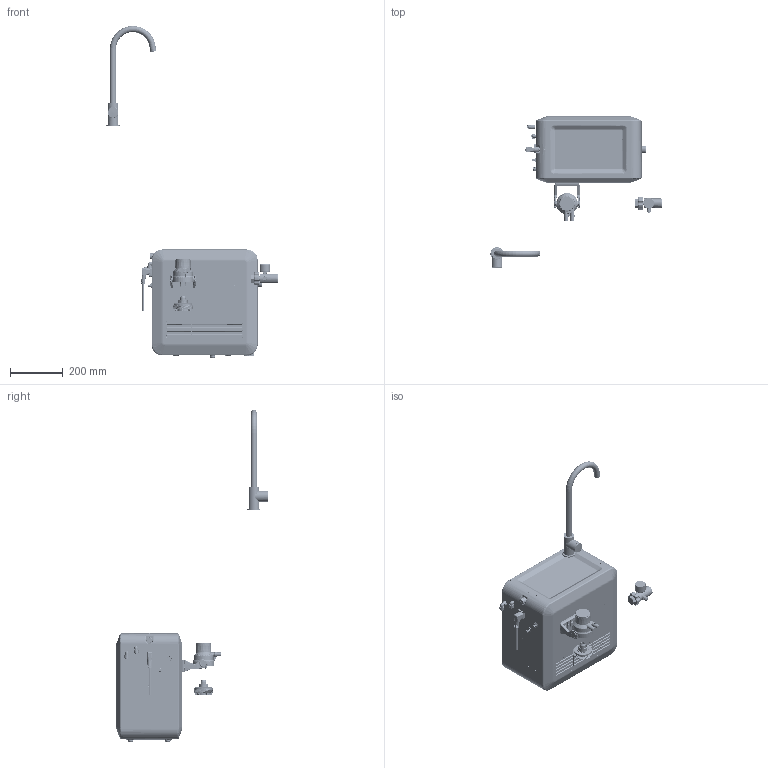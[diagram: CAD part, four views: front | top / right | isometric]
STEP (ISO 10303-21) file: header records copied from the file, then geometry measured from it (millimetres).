
FILE_DESCRIPTION(/* description */ ('Unknown'),/* implementation_level */ '2;1');
FILE_NAME(/* name */ '31302002',/* time_stamp */ '2022-09-07T16:05:25+02:00',/* author */ ('Unknown'),/* organization */ ('GROHE AG'),/* preprocessor_version */ 'ST-DEVELOPER v16.7',/* originating_system */ 'DEX',/* authorisation */ $);
FILE_SCHEMA (('CONFIG_CONTROL_DESIGN','AUTOMOTIVE_DESIGN {1 0 10303 214 3 1 1}'));
Products named in the file (33): 31302002; 31302002_0; 31302002_1; 31302002_2; NONE; Ecran Makrolon; Hauptkörper; 31302002_3; Hauptkörper_0; Hauptkörper_1; Hauptkörper_2; Hauptkörper_3; 31302002_4; 31302002_5; 31302002_6; 31302002_7; 31302002_8; 31302002_9; 31302002_10; 31302002_11; 31302002_12; 31302002_13; 31302002_14; 31302002_15; 31302002_16; 31302002_17; 31302002_18; Document; A1921_MENTOR_ALLCATPART_14072015; 40.2100.13300 for customer; Document_0; Document_1
Assembly tree (32 placements, depth 2):
  31302002
    31302002
    31302002_0
    31302002_1
    31302002_2
    NONE
    Ecran Makrolon
    Hauptkörper
    31302002_3
    Hauptkörper_0
    Hauptkörper_1
    Hauptkörper_2
    Hauptkörper_3
    31302002_4
    31302002_5
    31302002_6
    31302002_7
    31302002_8
    31302002_9
    31302002_10
    31302002_11
    31302002_12
    31302002_13
    31302002_14
    31302002_15
    31302002_16
    31302002_17
    31302002_18
    Document
    A1921_MENTOR_ALLCATPART_14072015
    40.2100.13300 for customer
    Document_0
    Document_1
Bounding box: 646.74 x 572.5 x 1254.39 mm (x, y, z)
Volume: 3329061.1 mm3; surface area: 2019423.3 mm2
Topology: 42 solids, 62 shells, 9988 faces, 25591 edges, 15737 vertices
Faces by surface type: plane 4045, cylinder 2218, bspline 2125, torus 841, cone 426, sphere 333
Full cylindrical faces by diameter (mm): 1.5 x2, 2 x5, 2.5 x2, 2.9 x1, 3.403 x2, 3.6 x1, 4 x1, 4.2 x4, 4.5 x5, 6 x4, 6.1 x1, 6.5 x2, 7 x1, 7.8 x1, 8 x4, 8.2 x1, 8.57 x2, 8.6 x1, 9.5 x1, 9.73 x1, 9.8 x1, 10 x2, 10.6 x1, 11.5 x3, 12 x2, 12.2 x1, 12.3 x1, 12.7 x2, 12.9 x1, 13 x1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
Entity records: 438883 total; most frequent: CARTESIAN_POINT 169877, ORIENTED_EDGE 49270, DIRECTION 40499, EDGE_CURVE 24635, VERTEX_POINT 15542, AXIS2_PLACEMENT_3D 14357, LINE 11785, VECTOR 11785
